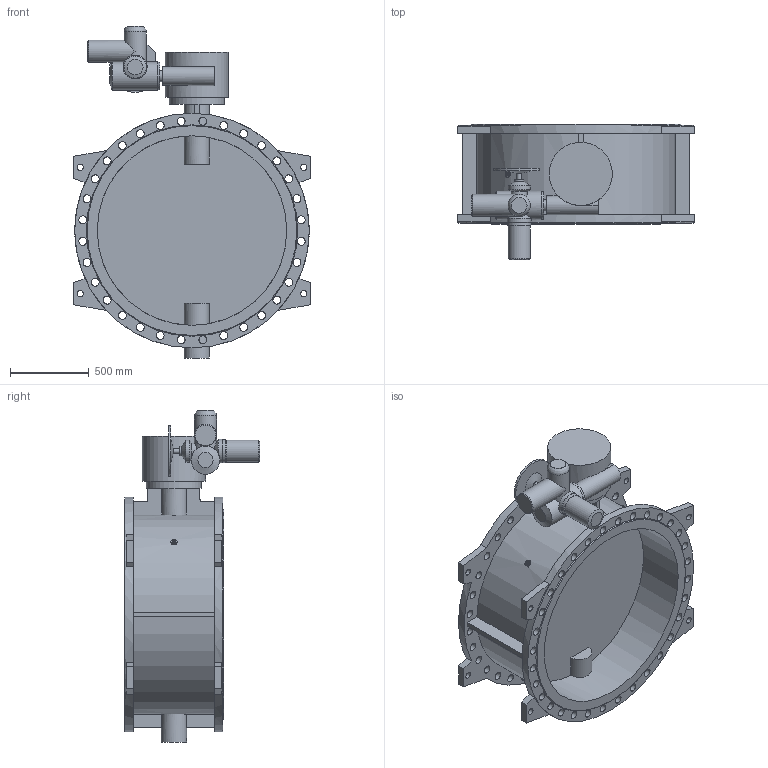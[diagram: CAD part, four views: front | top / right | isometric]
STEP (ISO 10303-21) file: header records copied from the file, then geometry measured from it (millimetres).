
FILE_DESCRIPTION(('STEP AP203'), '1');
FILE_NAME('Çàòâîð 023F.Z DN1200 PN16 + ðåäóêòîð + ÌÒ903.À30', '', ('UNSPECIFIED'), ('UNSPECIFIED'), 'ASCON STEP Converter 1.6', 'ASCON Math Kernel', '');
FILE_SCHEMA(('CONFIG_CONTROL_DESIGN'));
Length unit declared in the file: millimetre
Bounding box: 1496 x 859 x 2102 mm (x, y, z)
Volume: 301015639.2 mm3; surface area: 11711989.2 mm2
Topology: 1 solids, 1 shells, 268 faces, 668 edges, 438 vertices
Faces by surface type: cylinder 138, plane 118, cone 11, torus 1
Full cylindrical faces by diameter (mm): 14 x4, 18 x12, 23 x8, 32 x1, 40 x8, 50 x64, 60 x1, 70 x1, 100 x1, 120 x1, 140 x4, 147 x1, 151 x1, 160 x1, 175 x1, 180 x1, 350 x1, 400 x1, 1200 x2, 1485 x2
Entity records: 11873 total; most frequent: CARTESIAN_POINT 3329, DIRECTION 1335, ORIENTED_EDGE 1076, EDGE_LOOP 575, AXIS2_PLACEMENT_3D 568, EDGE_CURVE 538, VERTEX_POINT 437, FACE_BOUND 336
